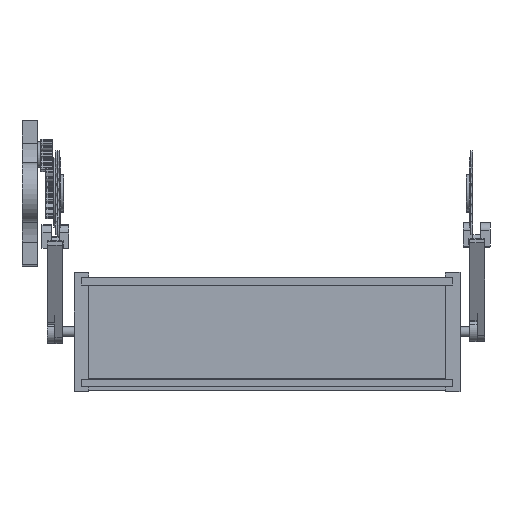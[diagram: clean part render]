
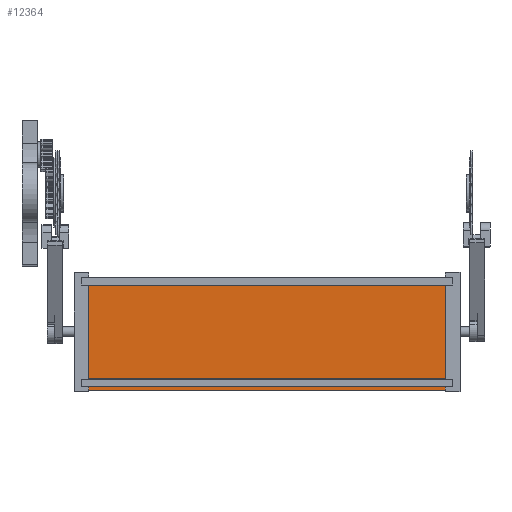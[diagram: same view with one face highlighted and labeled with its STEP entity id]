
A CAD part, top view. The second image highlights one B-rep face of the part: STEP entity #12364.
In plain terms, the highlighted planar face has unit normal (0, -0.008, 1) as drawn and (0, 0, 1) by its records, which use the part's own axes.
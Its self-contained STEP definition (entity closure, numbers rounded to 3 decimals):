
#750=LINE('',#19289,#1798);
#753=LINE('',#19295,#1801);
#756=LINE('',#19301,#1804);
#759=LINE('',#19305,#1807);
#1798=VECTOR('',#15624,0.394);
#1801=VECTOR('',#15629,0.394);
#1804=VECTOR('',#15634,0.394);
#1807=VECTOR('',#15639,0.394);
#3115=FACE_OUTER_BOUND('',#3819,.T.);
#3819=EDGE_LOOP('',(#9383,#9384,#9385,#9386));
#5410=VERTEX_POINT('',#19286);
#5411=VERTEX_POINT('',#19288);
#5413=VERTEX_POINT('',#19294);
#5415=VERTEX_POINT('',#19300);
#6869=EDGE_CURVE('',#5411,#5410,#750,.T.);
#6872=EDGE_CURVE('',#5413,#5411,#753,.T.);
#6875=EDGE_CURVE('',#5415,#5413,#756,.T.);
#6878=EDGE_CURVE('',#5410,#5415,#759,.T.);
#9383=ORIENTED_EDGE('',*,*,#6878,.T.);
#9384=ORIENTED_EDGE('',*,*,#6875,.T.);
#9385=ORIENTED_EDGE('',*,*,#6872,.T.);
#9386=ORIENTED_EDGE('',*,*,#6869,.T.);
#11997=PLANE('',#13402);
#12364=ADVANCED_FACE('',(#3115),#11997,.T.);
#13402=AXIS2_PLACEMENT_3D('',#19306,#15640,#15641);
#15624=DIRECTION('',(0.,1.,0.));
#15629=DIRECTION('',(1.,0.,0.));
#15634=DIRECTION('',(0.,-1.,0.));
#15639=DIRECTION('',(-1.,0.,0.));
#15640=DIRECTION('center_axis',(0.,0.,1.));
#15641=DIRECTION('ref_axis',(1.,0.,0.));
#19286=CARTESIAN_POINT('',(18.376,5.75,0.62));
#19288=CARTESIAN_POINT('',(18.376,0.,0.62));
#19289=CARTESIAN_POINT('',(18.376,5.75,0.62));
#19294=CARTESIAN_POINT('',(-0.376,0.,0.62));
#19295=CARTESIAN_POINT('',(18.376,0.,0.62));
#19300=CARTESIAN_POINT('',(-0.376,5.75,0.62));
#19301=CARTESIAN_POINT('',(-0.376,0.,0.62));
#19305=CARTESIAN_POINT('',(-0.376,5.75,0.62));
#19306=CARTESIAN_POINT('Origin',(9.,2.875,0.62));
